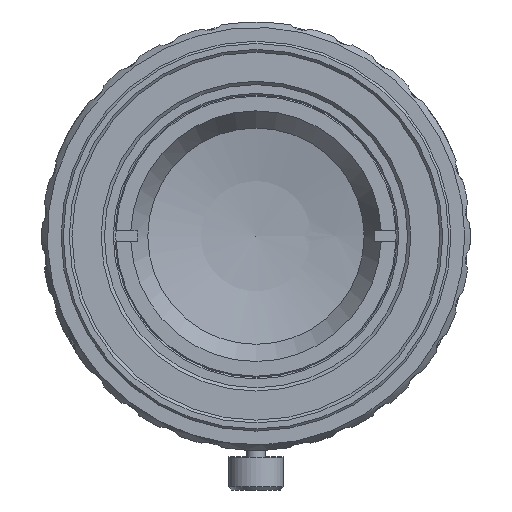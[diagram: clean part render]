
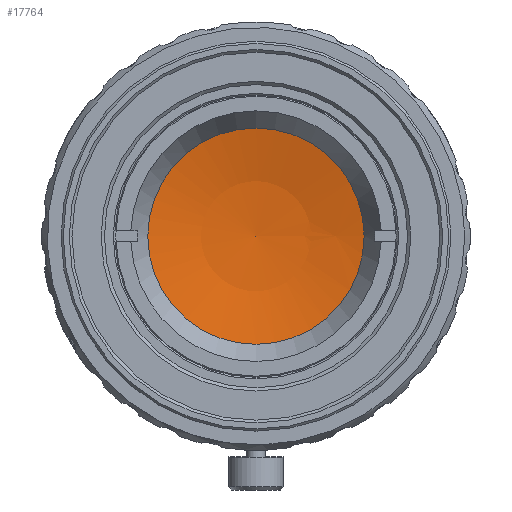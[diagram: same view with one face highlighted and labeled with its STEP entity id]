
A CAD part, front view. The second image highlights one B-rep face of the part: STEP entity #17764.
In plain terms, the highlighted spherical face has radius 42.215 mm.
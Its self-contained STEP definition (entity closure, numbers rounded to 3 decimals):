
#40=SPHERICAL_SURFACE('',#19007,42.215);
#1184=CIRCLE('',#19006,9.957);
#3751=ORIENTED_EDGE('',*,*,#5907,.T.);
#5907=EDGE_CURVE('',#7245,#7245,#1184,.T.);
#7245=VERTEX_POINT('',#26883);
#9883=EDGE_LOOP('',(#3751));
#10987=FACE_BOUND('',#9883,.T.);
#17764=ADVANCED_FACE('',(#10987),#40,.F.);
#19006=AXIS2_PLACEMENT_3D('',#26882,#21933,#21934);
#19007=AXIS2_PLACEMENT_3D('',#26884,#21935,#21936);
#21933=DIRECTION('',(0.,-1.,0.));
#21934=DIRECTION('',(0.,0.,-1.));
#21935=DIRECTION('',(0.,-1.,0.));
#21936=DIRECTION('',(1.,0.,0.));
#26882=CARTESIAN_POINT('',(0.,-74.773,0.));
#26883=CARTESIAN_POINT('',(0.,-74.773,-9.957));
#26884=CARTESIAN_POINT('',(0.,-115.797,0.));
